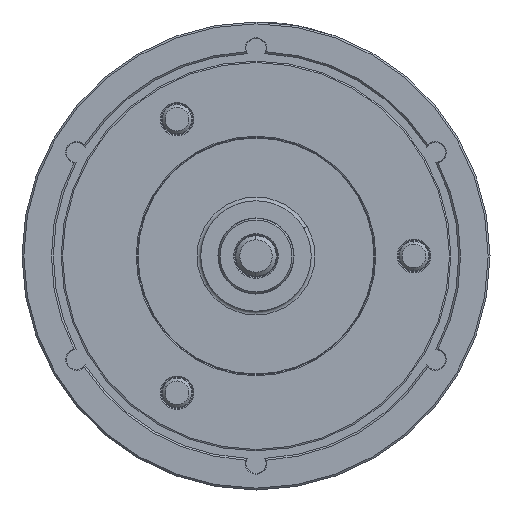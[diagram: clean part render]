
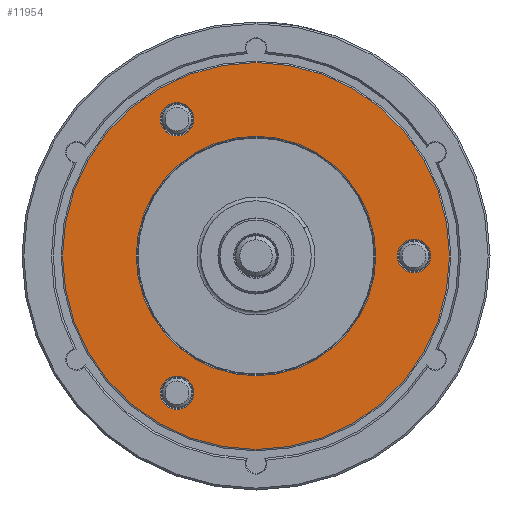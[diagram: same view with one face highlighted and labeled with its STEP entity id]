
A CAD part, left-side view. The second image highlights one B-rep face of the part: STEP entity #11954.
In plain terms, the highlighted planar face has unit normal (-1, 0, 0).
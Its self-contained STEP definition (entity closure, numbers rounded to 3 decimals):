
#1019 = EDGE_LOOP ( 'NONE', ( #40442, #31648 ) ) ;
#1714 = EDGE_CURVE ( 'NONE', #36338, #42737, #14417, .T. ) ;
#2033 = ORIENTED_EDGE ( 'NONE', *, *, #5981, .T. ) ;
#4253 = VERTEX_POINT ( 'NONE', #42135 ) ;
#4742 = AXIS2_PLACEMENT_3D ( 'NONE', #40939, #18163, #44792 ) ;
#5116 = DIRECTION ( 'NONE',  ( 1., 0., 0. ) ) ;
#5131 = EDGE_CURVE ( 'NONE', #35442, #46032, #34136, .T. ) ;
#5636 = CARTESIAN_POINT ( 'NONE',  ( -100., -85.725, 9.1 ) ) ;
#5981 = EDGE_CURVE ( 'NONE', #12534, #37591, #39426, .T. ) ;
#6802 = CARTESIAN_POINT ( 'NONE',  ( -100., 42.862, -65.14 ) ) ;
#7460 = VERTEX_POINT ( 'NONE', #5636 ) ;
#8057 = DIRECTION ( 'NONE',  ( -1., 0., 0. ) ) ;
#8094 = EDGE_LOOP ( 'NONE', ( #8799, #20529 ) ) ;
#8160 = PLANE ( 'NONE',  #36650 ) ;
#8261 = EDGE_CURVE ( 'NONE', #26904, #4253, #33908, .T. ) ;
#8480 = CARTESIAN_POINT ( 'NONE',  ( -100., 42.862, -74.24 ) ) ;
#8529 = CIRCLE ( 'NONE', #19361, 9.1 ) ;
#8799 = ORIENTED_EDGE ( 'NONE', *, *, #5131, .F. ) ;
#10373 = DIRECTION ( 'NONE',  ( 1., 0., 0. ) ) ;
#10595 = CARTESIAN_POINT ( 'NONE',  ( -100., 42.863, 83.34 ) ) ;
#11470 = DIRECTION ( 'NONE',  ( -1., 0., 0. ) ) ;
#11954 = ADVANCED_FACE ( 'NONE', ( #18192, #28334, #47404, #37232, #27120 ), #8160, .F. ) ;
#11983 = CARTESIAN_POINT ( 'NONE',  ( -100., -105., 0. ) ) ;
#12327 = DIRECTION ( 'NONE',  ( 0., 0., -1. ) ) ;
#12534 = VERTEX_POINT ( 'NONE', #25069 ) ;
#13430 = DIRECTION ( 'NONE',  ( 1., 0., 0. ) ) ;
#13473 = ORIENTED_EDGE ( 'NONE', *, *, #47817, .T. ) ;
#13740 = CARTESIAN_POINT ( 'NONE',  ( -100., 0., 0. ) ) ;
#14417 = CIRCLE ( 'NONE', #30135, 9.1 ) ;
#14865 = CARTESIAN_POINT ( 'NONE',  ( -100., -85.725, -9.1 ) ) ;
#15035 = CARTESIAN_POINT ( 'NONE',  ( -100., -85.725, 0. ) ) ;
#15552 = DIRECTION ( 'NONE',  ( 1., 0., 0. ) ) ;
#15814 = DIRECTION ( 'NONE',  ( 1., 0., 0. ) ) ;
#17243 = AXIS2_PLACEMENT_3D ( 'NONE', #8480, #35110, #12327 ) ;
#17556 = DIRECTION ( 'NONE',  ( 0., 0.866, -0.5 ) ) ;
#18163 = DIRECTION ( 'NONE',  ( -1., 0., 0. ) ) ;
#18192 = FACE_BOUND ( 'NONE', #1019, .T. ) ;
#18592 = CARTESIAN_POINT ( 'NONE',  ( -100., 42.863, 65.14 ) ) ;
#18666 = CIRCLE ( 'NONE', #42958, 9.1 ) ;
#18858 = DIRECTION ( 'NONE',  ( 0., 0., -1. ) ) ;
#19361 = AXIS2_PLACEMENT_3D ( 'NONE', #15035, #41634, #18858 ) ;
#20322 = ORIENTED_EDGE ( 'NONE', *, *, #8261, .T. ) ;
#20529 = ORIENTED_EDGE ( 'NONE', *, *, #47005, .F. ) ;
#20644 = AXIS2_PLACEMENT_3D ( 'NONE', #13740, #40324, #17556 ) ;
#20987 = EDGE_CURVE ( 'NONE', #37591, #12534, #43573, .T. ) ;
#21337 = CIRCLE ( 'NONE', #34615, 9.1 ) ;
#22942 = EDGE_LOOP ( 'NONE', ( #2033, #32124 ) ) ;
#24128 = AXIS2_PLACEMENT_3D ( 'NONE', #33188, #10373, #37004 ) ;
#25069 = CARTESIAN_POINT ( 'NONE',  ( -100., -90.933, 52.5 ) ) ;
#25451 = AXIS2_PLACEMENT_3D ( 'NONE', #34271, #11470, #38098 ) ;
#26644 = CARTESIAN_POINT ( 'NONE',  ( -100., -56.292, 32.5 ) ) ;
#26904 = VERTEX_POINT ( 'NONE', #6802 ) ;
#27120 = FACE_BOUND ( 'NONE', #29776, .T. ) ;
#27752 = AXIS2_PLACEMENT_3D ( 'NONE', #30860, #8057, #34665 ) ;
#27922 = CARTESIAN_POINT ( 'NONE',  ( -100., 42.863, 74.24 ) ) ;
#28334 = FACE_OUTER_BOUND ( 'NONE', #22942, .T. ) ;
#29776 = EDGE_LOOP ( 'NONE', ( #20322, #13473 ) ) ;
#30135 = AXIS2_PLACEMENT_3D ( 'NONE', #27922, #5116, #31726 ) ;
#30860 = CARTESIAN_POINT ( 'NONE',  ( -100., 0., 0. ) ) ;
#31648 = ORIENTED_EDGE ( 'NONE', *, *, #44423, .T. ) ;
#31726 = DIRECTION ( 'NONE',  ( 0., 0., -1. ) ) ;
#32124 = ORIENTED_EDGE ( 'NONE', *, *, #20987, .T. ) ;
#33188 = CARTESIAN_POINT ( 'NONE',  ( -100., 42.862, -74.24 ) ) ;
#33908 = CIRCLE ( 'NONE', #24128, 9.1 ) ;
#34136 = CIRCLE ( 'NONE', #20644, 65. ) ;
#34271 = CARTESIAN_POINT ( 'NONE',  ( -100., 0., 0. ) ) ;
#34341 = VERTEX_POINT ( 'NONE', #14865 ) ;
#34615 = AXIS2_PLACEMENT_3D ( 'NONE', #38326, #15552, #42151 ) ;
#34665 = DIRECTION ( 'NONE',  ( 0., 0.866, -0.5 ) ) ;
#35110 = DIRECTION ( 'NONE',  ( 1., 0., 0. ) ) ;
#35442 = VERTEX_POINT ( 'NONE', #39170 ) ;
#36212 = CARTESIAN_POINT ( 'NONE',  ( -100., 42.863, 74.24 ) ) ;
#36338 = VERTEX_POINT ( 'NONE', #10595 ) ;
#36474 = EDGE_LOOP ( 'NONE', ( #39313, #39177 ) ) ;
#36574 = CIRCLE ( 'NONE', #17243, 9.1 ) ;
#36650 = AXIS2_PLACEMENT_3D ( 'NONE', #11983, #15814, #42421 ) ;
#37004 = DIRECTION ( 'NONE',  ( 0., 0., -1. ) ) ;
#37232 = FACE_BOUND ( 'NONE', #36474, .T. ) ;
#37591 = VERTEX_POINT ( 'NONE', #42051 ) ;
#38098 = DIRECTION ( 'NONE',  ( 0., 0.866, -0.5 ) ) ;
#38326 = CARTESIAN_POINT ( 'NONE',  ( -100., -85.725, 0. ) ) ;
#39170 = CARTESIAN_POINT ( 'NONE',  ( -100., 56.292, -32.5 ) ) ;
#39177 = ORIENTED_EDGE ( 'NONE', *, *, #43519, .T. ) ;
#39313 = ORIENTED_EDGE ( 'NONE', *, *, #39631, .T. ) ;
#39426 = CIRCLE ( 'NONE', #25451, 105. ) ;
#39631 = EDGE_CURVE ( 'NONE', #7460, #34341, #21337, .T. ) ;
#40026 = DIRECTION ( 'NONE',  ( 0., 0., -1. ) ) ;
#40324 = DIRECTION ( 'NONE',  ( -1., 0., 0. ) ) ;
#40442 = ORIENTED_EDGE ( 'NONE', *, *, #1714, .T. ) ;
#40939 = CARTESIAN_POINT ( 'NONE',  ( -100., 0., 0. ) ) ;
#41634 = DIRECTION ( 'NONE',  ( 1., 0., 0. ) ) ;
#42051 = CARTESIAN_POINT ( 'NONE',  ( -100., 90.933, -52.5 ) ) ;
#42135 = CARTESIAN_POINT ( 'NONE',  ( -100., 42.862, -83.34 ) ) ;
#42151 = DIRECTION ( 'NONE',  ( 0., 0., -1. ) ) ;
#42421 = DIRECTION ( 'NONE',  ( 0., 0., -1. ) ) ;
#42737 = VERTEX_POINT ( 'NONE', #18592 ) ;
#42958 = AXIS2_PLACEMENT_3D ( 'NONE', #36212, #13430, #40026 ) ;
#43519 = EDGE_CURVE ( 'NONE', #34341, #7460, #8529, .T. ) ;
#43573 = CIRCLE ( 'NONE', #4742, 105. ) ;
#44423 = EDGE_CURVE ( 'NONE', #42737, #36338, #18666, .T. ) ;
#44792 = DIRECTION ( 'NONE',  ( 0., 0.866, -0.5 ) ) ;
#45016 = CIRCLE ( 'NONE', #27752, 65. ) ;
#46032 = VERTEX_POINT ( 'NONE', #26644 ) ;
#47005 = EDGE_CURVE ( 'NONE', #46032, #35442, #45016, .T. ) ;
#47404 = FACE_BOUND ( 'NONE', #8094, .T. ) ;
#47817 = EDGE_CURVE ( 'NONE', #4253, #26904, #36574, .T. ) ;
